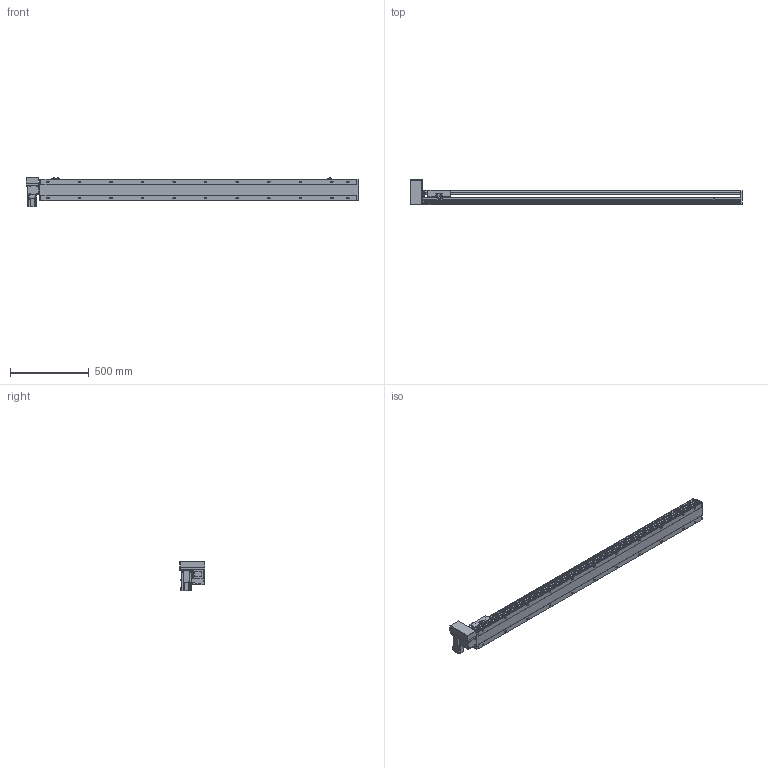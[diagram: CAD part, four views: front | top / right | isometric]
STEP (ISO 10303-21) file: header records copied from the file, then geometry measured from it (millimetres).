
FILE_DESCRIPTION( ( 'STEP AP214' ), '1' );
FILE_NAME( 'x:/temp/worker_6/temp/exporttempdir_5396_222_PNFBa/format_0/PBS140S-P40-S1750-RU-T40-C1-N(0).stp', '2022-06-09T00:55:55', ( 'License CC BY-ND 4.0' ), ( 'CADENAS' ), ' ', 'PARTsolutions', ' ' );
FILE_SCHEMA( ( 'AUTOMOTIVE_DESIGN { 1 0 10303 214 1 1 1 1 }' ) );
Length unit declared in the file: millimetre
Products named in the file (7): PBS140S-P40-S1750-RU-T40-C1-N(0); _PBS140S-S1750()_body; _PBS140ST-RU_motors; _T40-p1; _PBS140S_sliser; _PBS140S_plant; _PBS140S_sensor
Assembly tree (8 placements, depth 2):
  PBS140S-P40-S1750-RU-T40-C1-N(0)
    _PBS140S-S1750()_body
    _PBS140ST-RU_motors
    _T40-p1
    _PBS140S_sliser
    _PBS140S_plant
    _PBS140S_sensor  x3
Bounding box: 2104 x 162.5 x 189.7 mm (x, y, z)
Volume: 10454145.9 mm3; surface area: 1778216.2 mm2
Topology: 8 solids, 8 shells, 1147 faces, 3031 edges, 1983 vertices
Faces by surface type: plane 720, cylinder 369, cone 48, sphere 8, torus 2
Full cylindrical faces by diameter (mm): 3.242 x4, 4 x2, 4.134 x4, 4.4 x8, 4.5 x2, 4.8 x4, 4.917 x30, 5.5 x7, 6 x2, 7 x24, 7.5 x8, 8 x12, 8.5 x4, 10.5 x22, 14 x1, 30 x2, 50 x2
Entity records: 42262 total; most frequent: CARTESIAN_POINT 6910, DIRECTION 5558, ORIENTED_EDGE 5242, EDGE_CURVE 2621, AXIS2_PLACEMENT_3D 1949, VERTEX_POINT 1825, LINE 1660, VECTOR 1660
